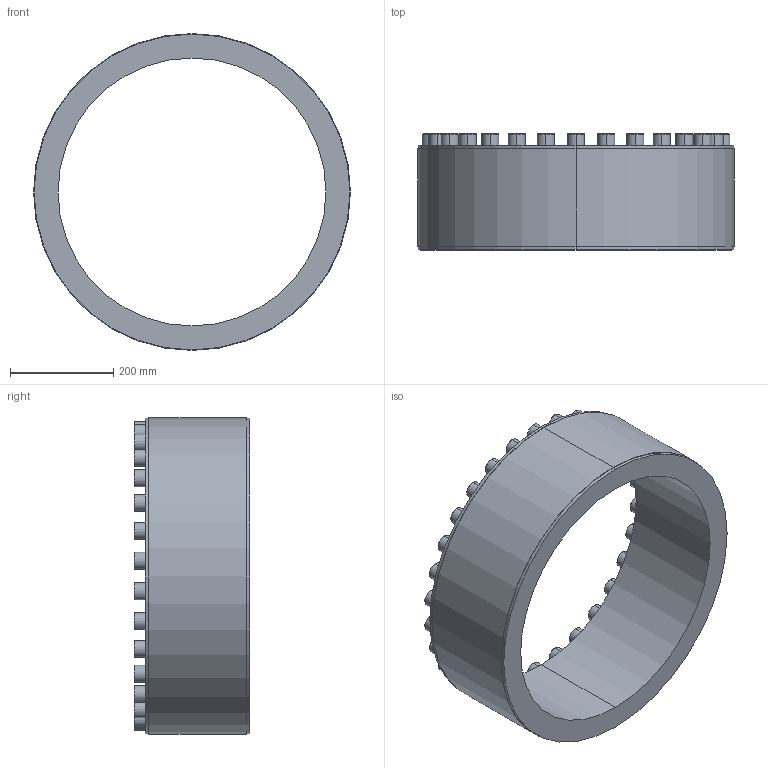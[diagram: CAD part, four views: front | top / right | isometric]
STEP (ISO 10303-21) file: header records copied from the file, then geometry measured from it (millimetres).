
FILE_DESCRIPTION (( 'STEP AP203' ), '1' );
FILE_NAME ('PL-D1 520-615.STEP', '2021-10-23T00:28:09', ( '' ), ( '' ), 'SwSTEP 2.0', 'SolidWorks 2018', '' );
FILE_SCHEMA (( 'CONFIG_CONTROL_DESIGN' ));
Length unit declared in the file: millimetre
Products named in the file (1): PL-D1 520-615
Bounding box: 615 x 225 x 615 mm (x, y, z)
Volume: 17647830.4 mm3; surface area: 980314.8 mm2
Topology: 1 solids, 1 shells, 372 faces, 864 edges, 556 vertices
Faces by surface type: plane 244, cylinder 68, torus 60
Entity records: 10605 total; most frequent: DIRECTION 1866, CARTESIAN_POINT 1793, ORIENTED_EDGE 1728, EDGE_CURVE 864, AXIS2_PLACEMENT_3D 629, VECTOR 608, LINE 608, VERTEX_POINT 556
